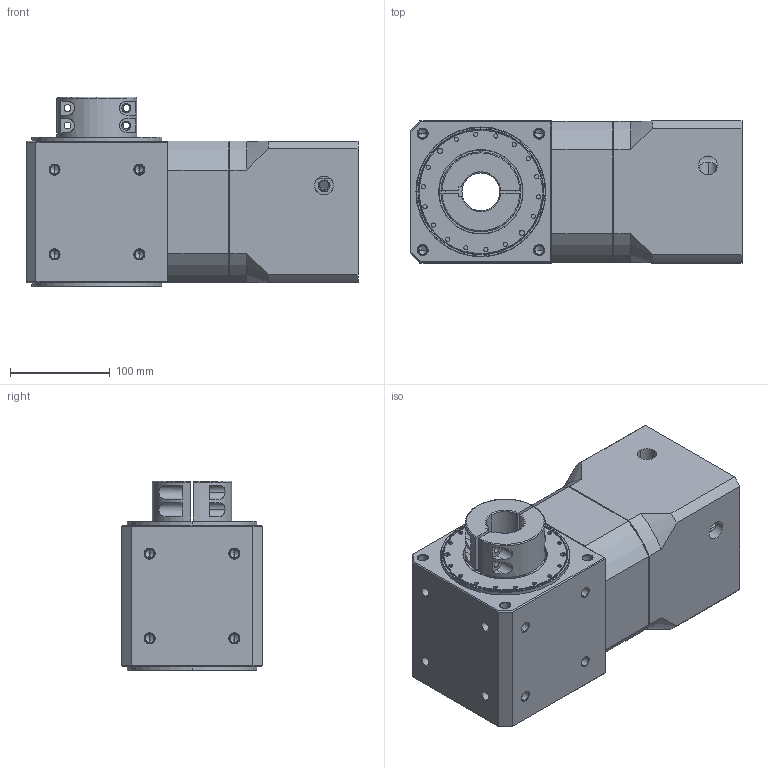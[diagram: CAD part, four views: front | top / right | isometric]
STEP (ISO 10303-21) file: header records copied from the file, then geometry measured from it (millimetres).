
FILE_DESCRIPTION (( 'STEP AP203' ), '1' );
FILE_NAME ('WS150F-¡¼-24-110-145-M8(1¡G2°tGNP150L1).STEP', '2014-07-08T09:52:54', ( ' ' ), ( '' ), 'SwSTEP 2.0', 'SolidWorks 2012', '' );
FILE_SCHEMA (( 'CONFIG_CONTROL_DESIGN' ));
Length unit declared in the file: millimetre
Products named in the file (1): WS150F-¡¼-24-110-145-M8(1¡G2°tGNP150L1)
Bounding box: 332.5 x 142 x 190 mm (x, y, z)
Volume: 3930370.8 mm3; surface area: 632409.3 mm2
Topology: 8 solids, 8 shells, 1110 faces, 2578 edges, 1537 vertices
Faces by surface type: cylinder 460, cone 372, plane 236, torus 34, bspline 8
Entity records: 33559 total; most frequent: CARTESIAN_POINT 7681, DIRECTION 5875, ORIENTED_EDGE 5004, EDGE_CURVE 2502, AXIS2_PLACEMENT_3D 2414, VERTEX_POINT 1537, EDGE_LOOP 1343, CIRCLE 1311
